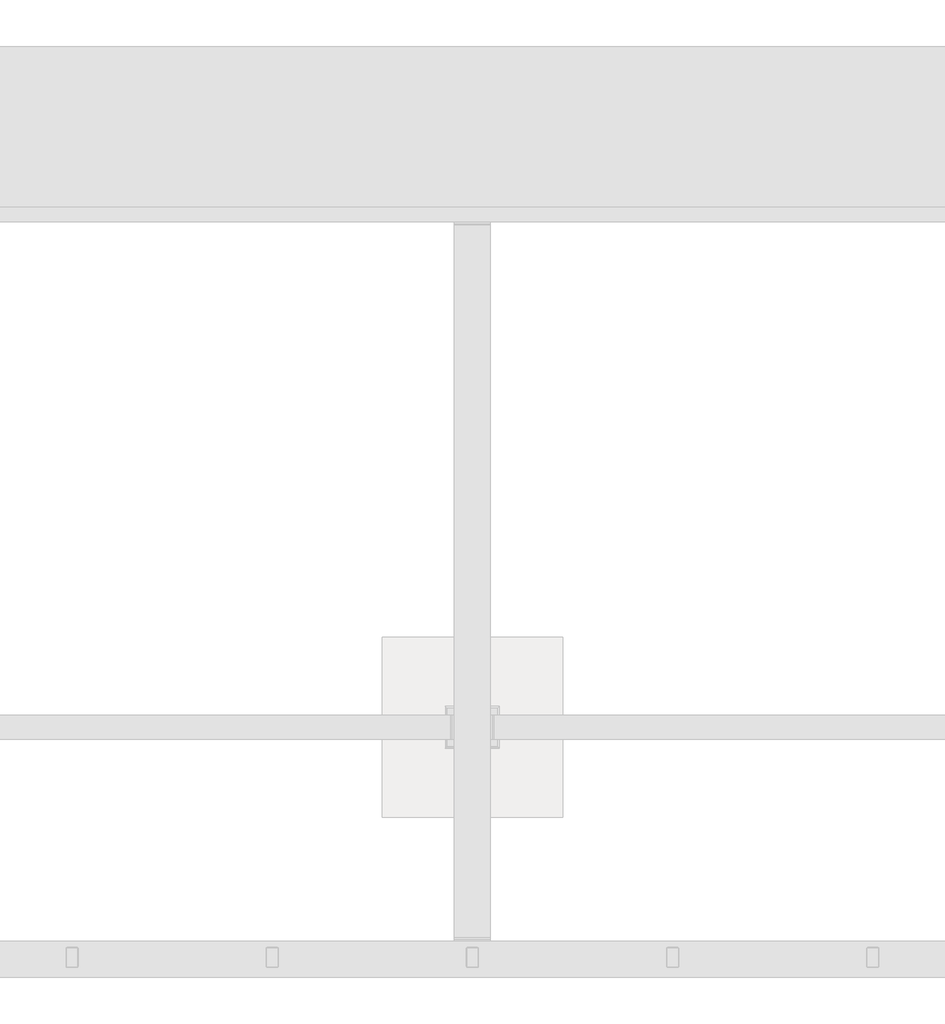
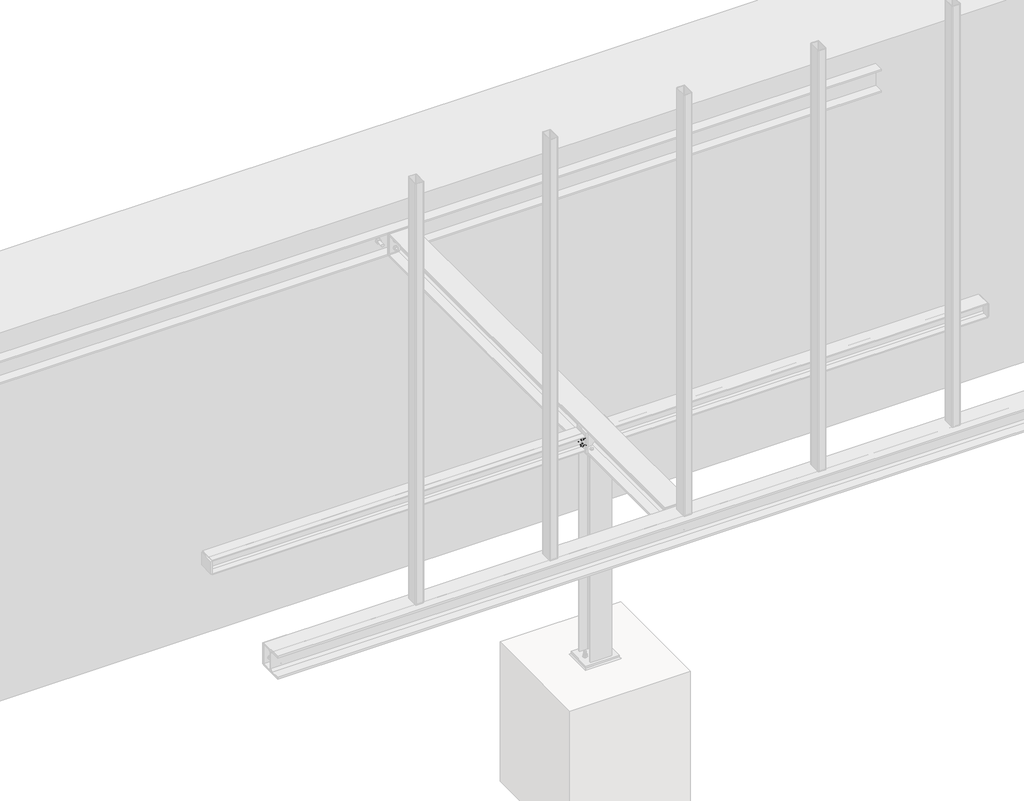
# One storey, part 18 of 31: 1 assembly.
"""IFC4 building model written with IfcOpenShell, lengths in millimetres."""

from ifc_helpers import new_model, si_unit, point, frame, frame_2d, origin, place, context, project, spatial, polyline, circle_curve, trimmed, segment, composite_curve, outline, extrude, element, save

model = new_model("IFC4")

# Units and contexts
model_context = context("Model", 3, world=origin())
ifc_project = project(units=[si_unit("LENGTHUNIT", "METRE", prefix="MILLI")], contexts=[model_context])

# Site, building, storey
site = spatial("IfcSite", under=ifc_project)
building = spatial("IfcBuilding", under=site)
storey = spatial("IfcBuildingStorey", under=building, Name="Základy", Elevation=-1200.0)

# Assembly
placement = place(None, origin())
element("IfcElementAssembly", 1, at=placement, inside=storey, context=model_context, shape_type="SweptSolid", body=[
    extrude(outline(composite_curve([segment(polyline([(-340.0, 3140.0), (-326.0, 3140.0), (-326.0, 3069.25)]), True, "CONTINUOUS"), segment(trimmed(circle_curve(frame_2d((-311.0, 3069.25)), 15.0), [point((-326.0, 3069.25))], [point((-311.0, 3054.25))], True, "CARTESIAN"), True, "CONTINUOUS"), segment(polyline([(-311.0, 3054.25), (-189.0, 3054.25)]), True, "CONTINUOUS"), segment(trimmed(circle_curve(frame_2d((-189.0, 3069.25)), 15.0), [point((-189.0, 3054.25))], [point((-174.0, 3069.25))], True, "CARTESIAN"), True, "CONTINUOUS"), segment(polyline([(-174.0, 3069.25), (-174.0, 3140.0), (-160.0, 3140.0), (-160.0, 2960.0), (-174.0, 2960.0), (-174.0, 3030.75)]), True, "CONTINUOUS"), segment(trimmed(circle_curve(frame_2d((-189.0, 3030.75)), 15.0), [point((-174.0, 3030.75))], [point((-189.0, 3045.75))], True, "CARTESIAN"), True, "CONTINUOUS"), segment(polyline([(-189.0, 3045.75), (-311.0, 3045.75)]), True, "CONTINUOUS"), segment(trimmed(circle_curve(frame_2d((-311.0, 3030.75)), 15.0), [point((-311.0, 3045.75))], [point((-326.0, 3030.75))], True, "CARTESIAN"), True, "CONTINUOUS"), segment(polyline([(-326.0, 3030.75), (-326.0, 2960.0), (-340.0, 2960.0), (-340.0, 3140.0)]), True, "CONTINUOUS")], self_intersect=False)), frame((0.0, 210.0, 0.0), z_axis=(0.0, 1.0, 0.0), x_axis=(0.0, 0.0, 1.0)), (0.0, 0.0, 1.0), 3557.0),
    extrude(outline(polyline([(2950.0, 1200.0), (2950.0, 1320.0), (2960.0, 1320.0), (2960.0, 1200.0), (2950.0, 1200.0)])), frame((0.0, 0.0, -332.0), z_axis=(0.0, 0.0, 1.0), x_axis=(1.0, 0.0, 0.0)), (0.0, 0.0, 1.0), 164.0),
    extrude(outline(composite_curve([segment(polyline([(-174.0, 2960.0), (-326.0, 2960.0), (-326.0, 3020.5)]), True, "CONTINUOUS"), segment(trimmed(circle_curve(frame_2d((-326.0, 3045.5)), 25.0), [point((-326.0, 3020.5))], [point((-301.0, 3045.5))], True, "CARTESIAN"), True, "CONTINUOUS"), segment(polyline([(-301.0, 3045.5), (-199.0, 3045.5)]), True, "CONTINUOUS"), segment(trimmed(circle_curve(frame_2d((-174.0, 3045.5)), 25.0), [point((-199.0, 3045.5))], [point((-174.0, 3020.5))], True, "CARTESIAN"), True, "CONTINUOUS"), segment(polyline([(-174.0, 3020.5), (-174.0, 2960.0)]), True, "CONTINUOUS")], self_intersect=False)), frame((0.0, 1256.0, 0.0), z_axis=(0.0, 1.0, 0.0), x_axis=(0.0, 0.0, 1.0)), (0.0, 0.0, 1.0), 8.0),
    extrude(outline(polyline([(2960.0, 3775.0), (3140.0, 3775.0), (3140.0, 3767.0), (2960.0, 3767.0), (2960.0, 3775.0)])), frame((0.0, 0.0, -316.0), z_axis=(0.0, 0.0, 1.0), x_axis=(1.0, 0.0, 0.0)), (0.0, 0.0, 1.0), 132.0),
    extrude(outline(polyline([(2960.0, 210.0), (3140.0, 210.0), (3140.0, 200.0), (2960.0, 200.0), (2960.0, 210.0)])), frame((0.0, 0.0, -332.0), z_axis=(0.0, 0.0, 1.0), x_axis=(1.0, 0.0, 0.0)), (0.0, 0.0, 1.0), 164.0),
    extrude(outline(polyline([(3140.0, 1200.0), (3140.0, 1320.0), (3150.0, 1320.0), (3150.0, 1200.0), (3140.0, 1200.0)])), frame((0.0, 0.0, -332.0), z_axis=(0.0, 0.0, 1.0), x_axis=(1.0, 0.0, 0.0)), (0.0, 0.0, 1.0), 164.0),
    extrude(outline(composite_curve([segment(polyline([(-174.0, 3140.0), (-174.0, 3079.5)]), True, "CONTINUOUS"), segment(trimmed(circle_curve(frame_2d((-174.0, 3054.5)), 25.0), [point((-174.0, 3079.5))], [point((-199.0, 3054.5))], True, "CARTESIAN"), True, "CONTINUOUS"), segment(polyline([(-199.0, 3054.5), (-301.0, 3054.5)]), True, "CONTINUOUS"), segment(trimmed(circle_curve(frame_2d((-326.0, 3054.5)), 25.0), [point((-301.0, 3054.5))], [point((-326.0, 3079.5))], True, "CARTESIAN"), True, "CONTINUOUS"), segment(polyline([(-326.0, 3079.5), (-326.0, 3140.0), (-174.0, 3140.0)]), True, "CONTINUOUS")], self_intersect=False)), frame((0.0, 1256.0, 0.0), z_axis=(0.0, 1.0, 0.0), x_axis=(0.0, 0.0, 1.0)), (0.0, 0.0, 1.0), 8.0),
    extrude(outline(composite_curve([segment(trimmed(circle_curve(frame_2d((1230.0, -225.0)), 6.5), [point((1230.0, -231.5))], [point((1230.0, -218.5))], False, "CARTESIAN"), True, "CONTINUOUS"), segment(trimmed(circle_curve(frame_2d((1230.0, -225.0)), 6.5), [point((1230.0, -218.5))], [point((1230.0, -231.5))], False, "CARTESIAN"), True, "CONTINUOUS")], self_intersect=False)), frame((2949.9, 0.0, 0.0), z_axis=(1.0, 0.0, 0.0), x_axis=(0.0, 1.0, 0.0)), (0.0, 0.0, 1.0), 10.0),
    extrude(outline(polyline([(1230.0, -235.3923048), (1221.0, -230.1961524), (1221.0, -219.8038476), (1230.0, -214.6076952), (1239.0, -219.8038476), (1239.0, -230.1961524), (1230.0, -235.3923048)])), frame((2962.5, 0.0, 0.0), z_axis=(1.0, 0.0, 0.0), x_axis=(0.0, 1.0, 0.0)), (0.0, 0.0, 1.0), 7.5),
    extrude(outline(composite_curve([segment(trimmed(circle_curve(frame_2d((1230.0, -225.0)), 6.0), [point((1230.0, -231.0))], [point((1230.0, -219.0))], False, "CARTESIAN"), True, "CONTINUOUS"), segment(trimmed(circle_curve(frame_2d((1230.0, -225.0)), 6.0), [point((1230.0, -219.0))], [point((1230.0, -231.0))], False, "CARTESIAN"), True, "CONTINUOUS")], self_intersect=False)), frame((2922.5, 0.0, 0.0), z_axis=(1.0, 0.0, 0.0), x_axis=(0.0, 1.0, 0.0)), (0.0, 0.0, 1.0), 40.0),
    extrude(outline(composite_curve([segment(trimmed(circle_curve(frame_2d((1230.0, -225.0)), 12.0), [point((1230.0, -237.0))], [point((1230.0, -213.0))], False, "CARTESIAN"), True, "CONTINUOUS"), segment(trimmed(circle_curve(frame_2d((1230.0, -225.0)), 12.0), [point((1230.0, -213.0))], [point((1230.0, -237.0))], False, "CARTESIAN"), True, "CONTINUOUS")], self_intersect=False)), frame((2960.0, 0.0, 0.0), z_axis=(1.0, 0.0, 0.0), x_axis=(0.0, 1.0, 0.0)), (0.0, 0.0, 1.0), 2.5),
    extrude(outline(composite_curve([segment(trimmed(circle_curve(frame_2d((1230.0, -225.0)), 12.0), [point((1230.0, -237.0))], [point((1230.0, -213.0))], False, "CARTESIAN"), True, "CONTINUOUS"), segment(trimmed(circle_curve(frame_2d((1230.0, -225.0)), 12.0), [point((1230.0, -213.0))], [point((1230.0, -237.0))], False, "CARTESIAN"), True, "CONTINUOUS")], self_intersect=False)), frame((2937.5, 0.0, 0.0), z_axis=(1.0, 0.0, 0.0), x_axis=(0.0, 1.0, 0.0)), (0.0, 0.0, 1.0), 2.5),
    extrude(outline(polyline([(1230.0, -235.9696551), (1220.5, -230.4848276), (1220.5, -219.5151724), (1230.0, -214.0303449), (1239.5, -219.5151724), (1239.5, -230.4848276), (1230.0, -235.9696551)])), frame((2927.5, 0.0, 0.0), z_axis=(1.0, 0.0, 0.0), x_axis=(0.0, 1.0, 0.0)), (0.0, 0.0, 1.0), 10.0),
    extrude(outline(composite_curve([segment(trimmed(circle_curve(frame_2d((1230.0, -225.0)), 6.5), [point((1230.0, -231.5))], [point((1230.0, -218.5))], False, "CARTESIAN"), True, "CONTINUOUS"), segment(trimmed(circle_curve(frame_2d((1230.0, -225.0)), 6.5), [point((1230.0, -218.5))], [point((1230.0, -231.5))], False, "CARTESIAN"), True, "CONTINUOUS")], self_intersect=False)), frame((2940.0, 0.0, 0.0), z_axis=(1.0, 0.0, 0.0), x_axis=(0.0, 1.0, 0.0)), (0.0, 0.0, 1.0), 10.1),
    extrude(outline(composite_curve([segment(trimmed(circle_curve(frame_2d((1230.0, -275.0)), 6.5), [point((1230.0, -281.5))], [point((1230.0, -268.5))], False, "CARTESIAN"), True, "CONTINUOUS"), segment(trimmed(circle_curve(frame_2d((1230.0, -275.0)), 6.5), [point((1230.0, -268.5))], [point((1230.0, -281.5))], False, "CARTESIAN"), True, "CONTINUOUS")], self_intersect=False)), frame((2949.9, 0.0, 0.0), z_axis=(1.0, 0.0, 0.0), x_axis=(0.0, 1.0, 0.0)), (0.0, 0.0, 1.0), 10.0),
    extrude(outline(polyline([(1230.0, -285.3923048), (1221.0, -280.1961524), (1221.0, -269.8038476), (1230.0, -264.6076952), (1239.0, -269.8038476), (1239.0, -280.1961524), (1230.0, -285.3923048)])), frame((2962.5, 0.0, 0.0), z_axis=(1.0, 0.0, 0.0), x_axis=(0.0, 1.0, 0.0)), (0.0, 0.0, 1.0), 7.5),
    extrude(outline(composite_curve([segment(trimmed(circle_curve(frame_2d((1230.0, -275.0)), 6.0), [point((1230.0, -281.0))], [point((1230.0, -269.0))], False, "CARTESIAN"), True, "CONTINUOUS"), segment(trimmed(circle_curve(frame_2d((1230.0, -275.0)), 6.0), [point((1230.0, -269.0))], [point((1230.0, -281.0))], False, "CARTESIAN"), True, "CONTINUOUS")], self_intersect=False)), frame((2922.5, 0.0, 0.0), z_axis=(1.0, 0.0, 0.0), x_axis=(0.0, 1.0, 0.0)), (0.0, 0.0, 1.0), 40.0),
    extrude(outline(composite_curve([segment(trimmed(circle_curve(frame_2d((1230.0, -275.0)), 12.0), [point((1230.0, -287.0))], [point((1230.0, -263.0))], False, "CARTESIAN"), True, "CONTINUOUS"), segment(trimmed(circle_curve(frame_2d((1230.0, -275.0)), 12.0), [point((1230.0, -263.0))], [point((1230.0, -287.0))], False, "CARTESIAN"), True, "CONTINUOUS")], self_intersect=False)), frame((2960.0, 0.0, 0.0), z_axis=(1.0, 0.0, 0.0), x_axis=(0.0, 1.0, 0.0)), (0.0, 0.0, 1.0), 2.5),
    extrude(outline(composite_curve([segment(trimmed(circle_curve(frame_2d((1230.0, -275.0)), 12.0), [point((1230.0, -287.0))], [point((1230.0, -263.0))], False, "CARTESIAN"), True, "CONTINUOUS"), segment(trimmed(circle_curve(frame_2d((1230.0, -275.0)), 12.0), [point((1230.0, -263.0))], [point((1230.0, -287.0))], False, "CARTESIAN"), True, "CONTINUOUS")], self_intersect=False)), frame((2937.5, 0.0, 0.0), z_axis=(1.0, 0.0, 0.0), x_axis=(0.0, 1.0, 0.0)), (0.0, 0.0, 1.0), 2.5),
    extrude(outline(polyline([(1230.0, -285.9696551), (1220.5, -280.4848276), (1220.5, -269.5151724), (1230.0, -264.0303449), (1239.5, -269.5151724), (1239.5, -280.4848276), (1230.0, -285.9696551)])), frame((2927.5, 0.0, 0.0), z_axis=(1.0, 0.0, 0.0), x_axis=(0.0, 1.0, 0.0)), (0.0, 0.0, 1.0), 10.0),
    extrude(outline(composite_curve([segment(trimmed(circle_curve(frame_2d((1230.0, -275.0)), 6.5), [point((1230.0, -281.5))], [point((1230.0, -268.5))], False, "CARTESIAN"), True, "CONTINUOUS"), segment(trimmed(circle_curve(frame_2d((1230.0, -275.0)), 6.5), [point((1230.0, -268.5))], [point((1230.0, -281.5))], False, "CARTESIAN"), True, "CONTINUOUS")], self_intersect=False)), frame((2940.0, 0.0, 0.0), z_axis=(1.0, 0.0, 0.0), x_axis=(0.0, 1.0, 0.0)), (0.0, 0.0, 1.0), 10.1),
    extrude(outline(composite_curve([segment(trimmed(circle_curve(frame_2d((1290.0, -225.0)), 6.5), [point((1290.0, -231.5))], [point((1290.0, -218.5))], False, "CARTESIAN"), True, "CONTINUOUS"), segment(trimmed(circle_curve(frame_2d((1290.0, -225.0)), 6.5), [point((1290.0, -218.5))], [point((1290.0, -231.5))], False, "CARTESIAN"), True, "CONTINUOUS")], self_intersect=False)), frame((2949.9, 0.0, 0.0), z_axis=(1.0, 0.0, 0.0), x_axis=(0.0, 1.0, 0.0)), (0.0, 0.0, 1.0), 10.0),
    extrude(outline(polyline([(1290.0, -235.3923048), (1281.0, -230.1961524), (1281.0, -219.8038476), (1290.0, -214.6076952), (1299.0, -219.8038476), (1299.0, -230.1961524), (1290.0, -235.3923048)])), frame((2962.5, 0.0, 0.0), z_axis=(1.0, 0.0, 0.0), x_axis=(0.0, 1.0, 0.0)), (0.0, 0.0, 1.0), 7.5),
    extrude(outline(composite_curve([segment(trimmed(circle_curve(frame_2d((1290.0, -225.0)), 6.0), [point((1290.0, -231.0))], [point((1290.0, -219.0))], False, "CARTESIAN"), True, "CONTINUOUS"), segment(trimmed(circle_curve(frame_2d((1290.0, -225.0)), 6.0), [point((1290.0, -219.0))], [point((1290.0, -231.0))], False, "CARTESIAN"), True, "CONTINUOUS")], self_intersect=False)), frame((2922.5, 0.0, 0.0), z_axis=(1.0, 0.0, 0.0), x_axis=(0.0, 1.0, 0.0)), (0.0, 0.0, 1.0), 40.0),
    extrude(outline(composite_curve([segment(trimmed(circle_curve(frame_2d((1290.0, -225.0)), 12.0), [point((1290.0, -237.0))], [point((1290.0, -213.0))], False, "CARTESIAN"), True, "CONTINUOUS"), segment(trimmed(circle_curve(frame_2d((1290.0, -225.0)), 12.0), [point((1290.0, -213.0))], [point((1290.0, -237.0))], False, "CARTESIAN"), True, "CONTINUOUS")], self_intersect=False)), frame((2960.0, 0.0, 0.0), z_axis=(1.0, 0.0, 0.0), x_axis=(0.0, 1.0, 0.0)), (0.0, 0.0, 1.0), 2.5),
    extrude(outline(composite_curve([segment(trimmed(circle_curve(frame_2d((1290.0, -225.0)), 12.0), [point((1290.0, -237.0))], [point((1290.0, -213.0))], False, "CARTESIAN"), True, "CONTINUOUS"), segment(trimmed(circle_curve(frame_2d((1290.0, -225.0)), 12.0), [point((1290.0, -213.0))], [point((1290.0, -237.0))], False, "CARTESIAN"), True, "CONTINUOUS")], self_intersect=False)), frame((2937.5, 0.0, 0.0), z_axis=(1.0, 0.0, 0.0), x_axis=(0.0, 1.0, 0.0)), (0.0, 0.0, 1.0), 2.5),
    extrude(outline(polyline([(1290.0, -235.9696551), (1280.5, -230.4848276), (1280.5, -219.5151724), (1290.0, -214.0303449), (1299.5, -219.5151724), (1299.5, -230.4848276), (1290.0, -235.9696551)])), frame((2927.5, 0.0, 0.0), z_axis=(1.0, 0.0, 0.0), x_axis=(0.0, 1.0, 0.0)), (0.0, 0.0, 1.0), 10.0),
    extrude(outline(composite_curve([segment(trimmed(circle_curve(frame_2d((1290.0, -225.0)), 6.5), [point((1290.0, -231.5))], [point((1290.0, -218.5))], False, "CARTESIAN"), True, "CONTINUOUS"), segment(trimmed(circle_curve(frame_2d((1290.0, -225.0)), 6.5), [point((1290.0, -218.5))], [point((1290.0, -231.5))], False, "CARTESIAN"), True, "CONTINUOUS")], self_intersect=False)), frame((2940.0, 0.0, 0.0), z_axis=(1.0, 0.0, 0.0), x_axis=(0.0, 1.0, 0.0)), (0.0, 0.0, 1.0), 10.1),
    extrude(outline(composite_curve([segment(trimmed(circle_curve(frame_2d((1290.0, -275.0)), 6.5), [point((1290.0, -281.5))], [point((1290.0, -268.5))], False, "CARTESIAN"), True, "CONTINUOUS"), segment(trimmed(circle_curve(frame_2d((1290.0, -275.0)), 6.5), [point((1290.0, -268.5))], [point((1290.0, -281.5))], False, "CARTESIAN"), True, "CONTINUOUS")], self_intersect=False)), frame((2949.9, 0.0, 0.0), z_axis=(1.0, 0.0, 0.0), x_axis=(0.0, 1.0, 0.0)), (0.0, 0.0, 1.0), 10.0),
    extrude(outline(polyline([(1290.0, -285.3923048), (1281.0, -280.1961524), (1281.0, -269.8038476), (1290.0, -264.6076952), (1299.0, -269.8038476), (1299.0, -280.1961524), (1290.0, -285.3923048)])), frame((2962.5, 0.0, 0.0), z_axis=(1.0, 0.0, 0.0), x_axis=(0.0, 1.0, 0.0)), (0.0, 0.0, 1.0), 7.5),
    extrude(outline(composite_curve([segment(trimmed(circle_curve(frame_2d((1290.0, -275.0)), 6.0), [point((1290.0, -281.0))], [point((1290.0, -269.0))], False, "CARTESIAN"), True, "CONTINUOUS"), segment(trimmed(circle_curve(frame_2d((1290.0, -275.0)), 6.0), [point((1290.0, -269.0))], [point((1290.0, -281.0))], False, "CARTESIAN"), True, "CONTINUOUS")], self_intersect=False)), frame((2922.5, 0.0, 0.0), z_axis=(1.0, 0.0, 0.0), x_axis=(0.0, 1.0, 0.0)), (0.0, 0.0, 1.0), 40.0),
    extrude(outline(composite_curve([segment(trimmed(circle_curve(frame_2d((1290.0, -275.0)), 12.0), [point((1290.0, -287.0))], [point((1290.0, -263.0))], False, "CARTESIAN"), True, "CONTINUOUS"), segment(trimmed(circle_curve(frame_2d((1290.0, -275.0)), 12.0), [point((1290.0, -263.0))], [point((1290.0, -287.0))], False, "CARTESIAN"), True, "CONTINUOUS")], self_intersect=False)), frame((2960.0, 0.0, 0.0), z_axis=(1.0, 0.0, 0.0), x_axis=(0.0, 1.0, 0.0)), (0.0, 0.0, 1.0), 2.5),
    extrude(outline(composite_curve([segment(trimmed(circle_curve(frame_2d((1290.0, -275.0)), 12.0), [point((1290.0, -287.0))], [point((1290.0, -263.0))], False, "CARTESIAN"), True, "CONTINUOUS"), segment(trimmed(circle_curve(frame_2d((1290.0, -275.0)), 12.0), [point((1290.0, -263.0))], [point((1290.0, -287.0))], False, "CARTESIAN"), True, "CONTINUOUS")], self_intersect=False)), frame((2937.5, 0.0, 0.0), z_axis=(1.0, 0.0, 0.0), x_axis=(0.0, 1.0, 0.0)), (0.0, 0.0, 1.0), 2.5),
    extrude(outline(polyline([(1290.0, -285.9696551), (1280.5, -280.4848276), (1280.5, -269.5151724), (1290.0, -264.0303449), (1299.5, -269.5151724), (1299.5, -280.4848276), (1290.0, -285.9696551)])), frame((2927.5, 0.0, 0.0), z_axis=(1.0, 0.0, 0.0), x_axis=(0.0, 1.0, 0.0)), (0.0, 0.0, 1.0), 10.0),
    extrude(outline(composite_curve([segment(trimmed(circle_curve(frame_2d((1290.0, -275.0)), 6.5), [point((1290.0, -281.5))], [point((1290.0, -268.5))], False, "CARTESIAN"), True, "CONTINUOUS"), segment(trimmed(circle_curve(frame_2d((1290.0, -275.0)), 6.5), [point((1290.0, -268.5))], [point((1290.0, -281.5))], False, "CARTESIAN"), True, "CONTINUOUS")], self_intersect=False)), frame((2940.0, 0.0, 0.0), z_axis=(1.0, 0.0, 0.0), x_axis=(0.0, 1.0, 0.0)), (0.0, 0.0, 1.0), 10.1),
    extrude(outline(composite_curve([segment(trimmed(circle_curve(frame_2d((1230.0, -225.0)), 6.5), [point((1230.0, -231.5))], [point((1230.0, -218.5))], False, "CARTESIAN"), True, "CONTINUOUS"), segment(trimmed(circle_curve(frame_2d((1230.0, -225.0)), 6.5), [point((1230.0, -218.5))], [point((1230.0, -231.5))], False, "CARTESIAN"), True, "CONTINUOUS")], self_intersect=False)), frame((3140.1, 0.0, 0.0), z_axis=(1.0, 0.0, 0.0), x_axis=(0.0, 1.0, 0.0)), (0.0, 0.0, 1.0), 10.0),
    extrude(outline(polyline([(1230.0, -235.3923048), (1221.0, -230.1961524), (1221.0, -219.8038476), (1230.0, -214.6076952), (1239.0, -219.8038476), (1239.0, -230.1961524), (1230.0, -235.3923048)])), frame((3130.0, 0.0, 0.0), z_axis=(1.0, 0.0, 0.0), x_axis=(0.0, 1.0, 0.0)), (0.0, 0.0, 1.0), 7.5),
    extrude(outline(composite_curve([segment(trimmed(circle_curve(frame_2d((1230.0, -225.0)), 6.0), [point((1230.0, -231.0))], [point((1230.0, -219.0))], False, "CARTESIAN"), True, "CONTINUOUS"), segment(trimmed(circle_curve(frame_2d((1230.0, -225.0)), 6.0), [point((1230.0, -219.0))], [point((1230.0, -231.0))], False, "CARTESIAN"), True, "CONTINUOUS")], self_intersect=False)), frame((3137.5, 0.0, 0.0), z_axis=(1.0, 0.0, 0.0), x_axis=(0.0, 1.0, 0.0)), (0.0, 0.0, 1.0), 40.0),
    extrude(outline(composite_curve([segment(trimmed(circle_curve(frame_2d((1230.0, -225.0)), 12.0), [point((1230.0, -237.0))], [point((1230.0, -213.0))], False, "CARTESIAN"), True, "CONTINUOUS"), segment(trimmed(circle_curve(frame_2d((1230.0, -225.0)), 12.0), [point((1230.0, -213.0))], [point((1230.0, -237.0))], False, "CARTESIAN"), True, "CONTINUOUS")], self_intersect=False)), frame((3137.5, 0.0, 0.0), z_axis=(1.0, 0.0, 0.0), x_axis=(0.0, 1.0, 0.0)), (0.0, 0.0, 1.0), 2.5),
    extrude(outline(composite_curve([segment(trimmed(circle_curve(frame_2d((1230.0, -225.0)), 12.0), [point((1230.0, -237.0))], [point((1230.0, -213.0))], False, "CARTESIAN"), True, "CONTINUOUS"), segment(trimmed(circle_curve(frame_2d((1230.0, -225.0)), 12.0), [point((1230.0, -213.0))], [point((1230.0, -237.0))], False, "CARTESIAN"), True, "CONTINUOUS")], self_intersect=False)), frame((3160.0, 0.0, 0.0), z_axis=(1.0, 0.0, 0.0), x_axis=(0.0, 1.0, 0.0)), (0.0, 0.0, 1.0), 2.5),
    extrude(outline(polyline([(1230.0, -235.9696551), (1220.5, -230.4848276), (1220.5, -219.5151724), (1230.0, -214.0303449), (1239.5, -219.5151724), (1239.5, -230.4848276), (1230.0, -235.9696551)])), frame((3162.5, 0.0, 0.0), z_axis=(1.0, 0.0, 0.0), x_axis=(0.0, 1.0, 0.0)), (0.0, 0.0, 1.0), 10.0),
    extrude(outline(composite_curve([segment(trimmed(circle_curve(frame_2d((1230.0, -225.0)), 6.5), [point((1230.0, -231.5))], [point((1230.0, -218.5))], False, "CARTESIAN"), True, "CONTINUOUS"), segment(trimmed(circle_curve(frame_2d((1230.0, -225.0)), 6.5), [point((1230.0, -218.5))], [point((1230.0, -231.5))], False, "CARTESIAN"), True, "CONTINUOUS")], self_intersect=False)), frame((3149.9, 0.0, 0.0), z_axis=(1.0, 0.0, 0.0), x_axis=(0.0, 1.0, 0.0)), (0.0, 0.0, 1.0), 10.1),
    extrude(outline(composite_curve([segment(trimmed(circle_curve(frame_2d((1230.0, -275.0)), 6.5), [point((1230.0, -281.5))], [point((1230.0, -268.5))], False, "CARTESIAN"), True, "CONTINUOUS"), segment(trimmed(circle_curve(frame_2d((1230.0, -275.0)), 6.5), [point((1230.0, -268.5))], [point((1230.0, -281.5))], False, "CARTESIAN"), True, "CONTINUOUS")], self_intersect=False)), frame((3140.1, 0.0, 0.0), z_axis=(1.0, 0.0, 0.0), x_axis=(0.0, 1.0, 0.0)), (0.0, 0.0, 1.0), 10.0),
    extrude(outline(polyline([(1230.0, -285.3923048), (1221.0, -280.1961524), (1221.0, -269.8038476), (1230.0, -264.6076952), (1239.0, -269.8038476), (1239.0, -280.1961524), (1230.0, -285.3923048)])), frame((3130.0, 0.0, 0.0), z_axis=(1.0, 0.0, 0.0), x_axis=(0.0, 1.0, 0.0)), (0.0, 0.0, 1.0), 7.5),
    extrude(outline(composite_curve([segment(trimmed(circle_curve(frame_2d((1230.0, -275.0)), 6.0), [point((1230.0, -281.0))], [point((1230.0, -269.0))], False, "CARTESIAN"), True, "CONTINUOUS"), segment(trimmed(circle_curve(frame_2d((1230.0, -275.0)), 6.0), [point((1230.0, -269.0))], [point((1230.0, -281.0))], False, "CARTESIAN"), True, "CONTINUOUS")], self_intersect=False)), frame((3137.5, 0.0, 0.0), z_axis=(1.0, 0.0, 0.0), x_axis=(0.0, 1.0, 0.0)), (0.0, 0.0, 1.0), 40.0),
    extrude(outline(composite_curve([segment(trimmed(circle_curve(frame_2d((1230.0, -275.0)), 12.0), [point((1230.0, -287.0))], [point((1230.0, -263.0))], False, "CARTESIAN"), True, "CONTINUOUS"), segment(trimmed(circle_curve(frame_2d((1230.0, -275.0)), 12.0), [point((1230.0, -263.0))], [point((1230.0, -287.0))], False, "CARTESIAN"), True, "CONTINUOUS")], self_intersect=False)), frame((3137.5, 0.0, 0.0), z_axis=(1.0, 0.0, 0.0), x_axis=(0.0, 1.0, 0.0)), (0.0, 0.0, 1.0), 2.5),
    extrude(outline(composite_curve([segment(trimmed(circle_curve(frame_2d((1230.0, -275.0)), 12.0), [point((1230.0, -287.0))], [point((1230.0, -263.0))], False, "CARTESIAN"), True, "CONTINUOUS"), segment(trimmed(circle_curve(frame_2d((1230.0, -275.0)), 12.0), [point((1230.0, -263.0))], [point((1230.0, -287.0))], False, "CARTESIAN"), True, "CONTINUOUS")], self_intersect=False)), frame((3160.0, 0.0, 0.0), z_axis=(1.0, 0.0, 0.0), x_axis=(0.0, 1.0, 0.0)), (0.0, 0.0, 1.0), 2.5),
    extrude(outline(polyline([(1230.0, -285.9696551), (1220.5, -280.4848276), (1220.5, -269.5151724), (1230.0, -264.0303449), (1239.5, -269.5151724), (1239.5, -280.4848276), (1230.0, -285.9696551)])), frame((3162.5, 0.0, 0.0), z_axis=(1.0, 0.0, 0.0), x_axis=(0.0, 1.0, 0.0)), (0.0, 0.0, 1.0), 10.0),
    extrude(outline(composite_curve([segment(trimmed(circle_curve(frame_2d((1230.0, -275.0)), 6.5), [point((1230.0, -281.5))], [point((1230.0, -268.5))], False, "CARTESIAN"), True, "CONTINUOUS"), segment(trimmed(circle_curve(frame_2d((1230.0, -275.0)), 6.5), [point((1230.0, -268.5))], [point((1230.0, -281.5))], False, "CARTESIAN"), True, "CONTINUOUS")], self_intersect=False)), frame((3149.9, 0.0, 0.0), z_axis=(1.0, 0.0, 0.0), x_axis=(0.0, 1.0, 0.0)), (0.0, 0.0, 1.0), 10.1),
    extrude(outline(composite_curve([segment(trimmed(circle_curve(frame_2d((1290.0, -225.0)), 6.5), [point((1290.0, -231.5))], [point((1290.0, -218.5))], False, "CARTESIAN"), True, "CONTINUOUS"), segment(trimmed(circle_curve(frame_2d((1290.0, -225.0)), 6.5), [point((1290.0, -218.5))], [point((1290.0, -231.5))], False, "CARTESIAN"), True, "CONTINUOUS")], self_intersect=False)), frame((3140.1, 0.0, 0.0), z_axis=(1.0, 0.0, 0.0), x_axis=(0.0, 1.0, 0.0)), (0.0, 0.0, 1.0), 10.0),
    extrude(outline(polyline([(1290.0, -235.3923048), (1281.0, -230.1961524), (1281.0, -219.8038476), (1290.0, -214.6076952), (1299.0, -219.8038476), (1299.0, -230.1961524), (1290.0, -235.3923048)])), frame((3130.0, 0.0, 0.0), z_axis=(1.0, 0.0, 0.0), x_axis=(0.0, 1.0, 0.0)), (0.0, 0.0, 1.0), 7.5),
    extrude(outline(composite_curve([segment(trimmed(circle_curve(frame_2d((1290.0, -225.0)), 6.0), [point((1290.0, -231.0))], [point((1290.0, -219.0))], False, "CARTESIAN"), True, "CONTINUOUS"), segment(trimmed(circle_curve(frame_2d((1290.0, -225.0)), 6.0), [point((1290.0, -219.0))], [point((1290.0, -231.0))], False, "CARTESIAN"), True, "CONTINUOUS")], self_intersect=False)), frame((3137.5, 0.0, 0.0), z_axis=(1.0, 0.0, 0.0), x_axis=(0.0, 1.0, 0.0)), (0.0, 0.0, 1.0), 40.0),
    extrude(outline(composite_curve([segment(trimmed(circle_curve(frame_2d((1290.0, -225.0)), 12.0), [point((1290.0, -237.0))], [point((1290.0, -213.0))], False, "CARTESIAN"), True, "CONTINUOUS"), segment(trimmed(circle_curve(frame_2d((1290.0, -225.0)), 12.0), [point((1290.0, -213.0))], [point((1290.0, -237.0))], False, "CARTESIAN"), True, "CONTINUOUS")], self_intersect=False)), frame((3137.5, 0.0, 0.0), z_axis=(1.0, 0.0, 0.0), x_axis=(0.0, 1.0, 0.0)), (0.0, 0.0, 1.0), 2.5),
    extrude(outline(composite_curve([segment(trimmed(circle_curve(frame_2d((1290.0, -225.0)), 12.0), [point((1290.0, -237.0))], [point((1290.0, -213.0))], False, "CARTESIAN"), True, "CONTINUOUS"), segment(trimmed(circle_curve(frame_2d((1290.0, -225.0)), 12.0), [point((1290.0, -213.0))], [point((1290.0, -237.0))], False, "CARTESIAN"), True, "CONTINUOUS")], self_intersect=False)), frame((3160.0, 0.0, 0.0), z_axis=(1.0, 0.0, 0.0), x_axis=(0.0, 1.0, 0.0)), (0.0, 0.0, 1.0), 2.5),
    extrude(outline(polyline([(1290.0, -235.9696551), (1280.5, -230.4848276), (1280.5, -219.5151724), (1290.0, -214.0303449), (1299.5, -219.5151724), (1299.5, -230.4848276), (1290.0, -235.9696551)])), frame((3162.5, 0.0, 0.0), z_axis=(1.0, 0.0, 0.0), x_axis=(0.0, 1.0, 0.0)), (0.0, 0.0, 1.0), 10.0),
    extrude(outline(composite_curve([segment(trimmed(circle_curve(frame_2d((1290.0, -225.0)), 6.5), [point((1290.0, -231.5))], [point((1290.0, -218.5))], False, "CARTESIAN"), True, "CONTINUOUS"), segment(trimmed(circle_curve(frame_2d((1290.0, -225.0)), 6.5), [point((1290.0, -218.5))], [point((1290.0, -231.5))], False, "CARTESIAN"), True, "CONTINUOUS")], self_intersect=False)), frame((3149.9, 0.0, 0.0), z_axis=(1.0, 0.0, 0.0), x_axis=(0.0, 1.0, 0.0)), (0.0, 0.0, 1.0), 10.1),
    extrude(outline(composite_curve([segment(trimmed(circle_curve(frame_2d((1290.0, -275.0)), 6.5), [point((1290.0, -281.5))], [point((1290.0, -268.5))], False, "CARTESIAN"), True, "CONTINUOUS"), segment(trimmed(circle_curve(frame_2d((1290.0, -275.0)), 6.5), [point((1290.0, -268.5))], [point((1290.0, -281.5))], False, "CARTESIAN"), True, "CONTINUOUS")], self_intersect=False)), frame((3140.1, 0.0, 0.0), z_axis=(1.0, 0.0, 0.0), x_axis=(0.0, 1.0, 0.0)), (0.0, 0.0, 1.0), 10.0),
    extrude(outline(polyline([(1290.0, -285.3923048), (1281.0, -280.1961524), (1281.0, -269.8038476), (1290.0, -264.6076952), (1299.0, -269.8038476), (1299.0, -280.1961524), (1290.0, -285.3923048)])), frame((3130.0, 0.0, 0.0), z_axis=(1.0, 0.0, 0.0), x_axis=(0.0, 1.0, 0.0)), (0.0, 0.0, 1.0), 7.5),
    extrude(outline(composite_curve([segment(trimmed(circle_curve(frame_2d((1290.0, -275.0)), 6.0), [point((1290.0, -281.0))], [point((1290.0, -269.0))], False, "CARTESIAN"), True, "CONTINUOUS"), segment(trimmed(circle_curve(frame_2d((1290.0, -275.0)), 6.0), [point((1290.0, -269.0))], [point((1290.0, -281.0))], False, "CARTESIAN"), True, "CONTINUOUS")], self_intersect=False)), frame((3137.5, 0.0, 0.0), z_axis=(1.0, 0.0, 0.0), x_axis=(0.0, 1.0, 0.0)), (0.0, 0.0, 1.0), 40.0),
    extrude(outline(composite_curve([segment(trimmed(circle_curve(frame_2d((1290.0, -275.0)), 12.0), [point((1290.0, -287.0))], [point((1290.0, -263.0))], False, "CARTESIAN"), True, "CONTINUOUS"), segment(trimmed(circle_curve(frame_2d((1290.0, -275.0)), 12.0), [point((1290.0, -263.0))], [point((1290.0, -287.0))], False, "CARTESIAN"), True, "CONTINUOUS")], self_intersect=False)), frame((3137.5, 0.0, 0.0), z_axis=(1.0, 0.0, 0.0), x_axis=(0.0, 1.0, 0.0)), (0.0, 0.0, 1.0), 2.5),
    extrude(outline(composite_curve([segment(trimmed(circle_curve(frame_2d((1290.0, -275.0)), 12.0), [point((1290.0, -287.0))], [point((1290.0, -263.0))], False, "CARTESIAN"), True, "CONTINUOUS"), segment(trimmed(circle_curve(frame_2d((1290.0, -275.0)), 12.0), [point((1290.0, -263.0))], [point((1290.0, -287.0))], False, "CARTESIAN"), True, "CONTINUOUS")], self_intersect=False)), frame((3160.0, 0.0, 0.0), z_axis=(1.0, 0.0, 0.0), x_axis=(0.0, 1.0, 0.0)), (0.0, 0.0, 1.0), 2.5),
    extrude(outline(polyline([(1290.0, -285.9696551), (1280.5, -280.4848276), (1280.5, -269.5151724), (1290.0, -264.0303449), (1299.5, -269.5151724), (1299.5, -280.4848276), (1290.0, -285.9696551)])), frame((3162.5, 0.0, 0.0), z_axis=(1.0, 0.0, 0.0), x_axis=(0.0, 1.0, 0.0)), (0.0, 0.0, 1.0), 10.0),
    extrude(outline(composite_curve([segment(trimmed(circle_curve(frame_2d((1290.0, -275.0)), 6.5), [point((1290.0, -281.5))], [point((1290.0, -268.5))], False, "CARTESIAN"), True, "CONTINUOUS"), segment(trimmed(circle_curve(frame_2d((1290.0, -275.0)), 6.5), [point((1290.0, -268.5))], [point((1290.0, -281.5))], False, "CARTESIAN"), True, "CONTINUOUS")], self_intersect=False)), frame((3149.9, 0.0, 0.0), z_axis=(1.0, 0.0, 0.0), x_axis=(0.0, 1.0, 0.0)), (0.0, 0.0, 1.0), 10.1),
])

save(model, "model.ifc")
